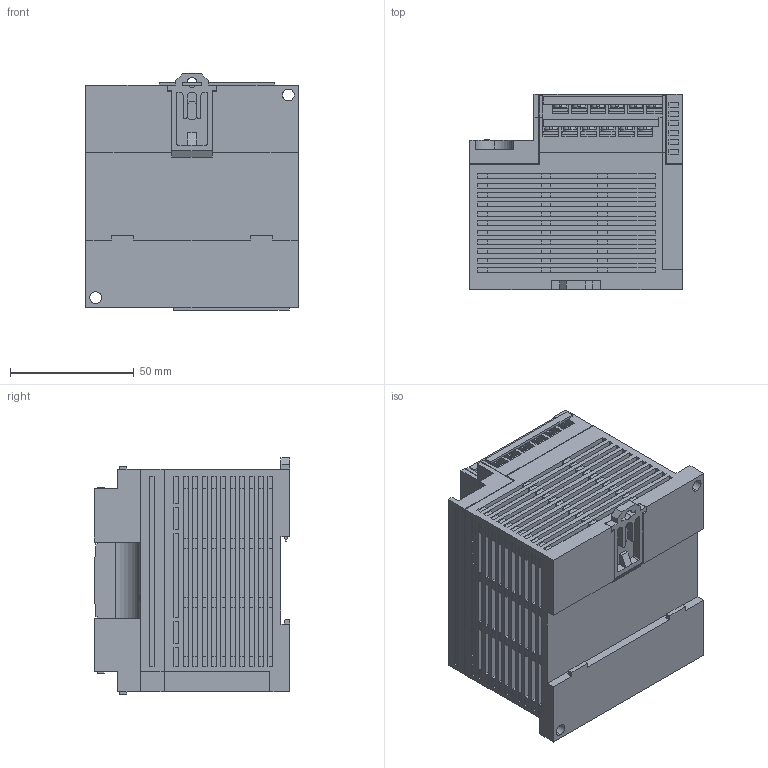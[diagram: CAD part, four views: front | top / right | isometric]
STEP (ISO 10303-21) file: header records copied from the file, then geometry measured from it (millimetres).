
FILE_DESCRIPTION (( 'STEP AP214' ), '1' );
FILE_NAME ('afpx0l14r.step', '2012-02-13T08:03:38', ( '' ), ( '' ), '', '', '' );
FILE_SCHEMA (( 'AUTOMOTIVE_DESIGN' ));
Length unit declared in the file: millimetre
Products named in the file (1): afpx0l14r
Bounding box: 86 x 79 x 95.5 mm (x, y, z)
Volume: 513298.1 mm3; surface area: 71072.5 mm2
Topology: 1 solids, 1 shells, 2064 faces, 5576 edges, 3652 vertices
Faces by surface type: plane 1881, cylinder 135, torus 48
Entity records: 88544 total; most frequent: CARTESIAN_POINT 13981, ORIENTED_EDGE 11152, DIRECTION 9888, EDGE_CURVE 5576, LINE 4818, VECTOR 4818, VERTEX_POINT 3652, AXIS2_PLACEMENT_3D 2535
